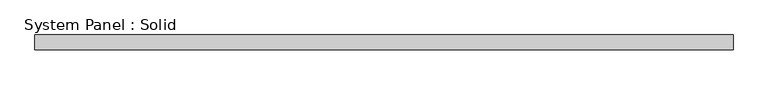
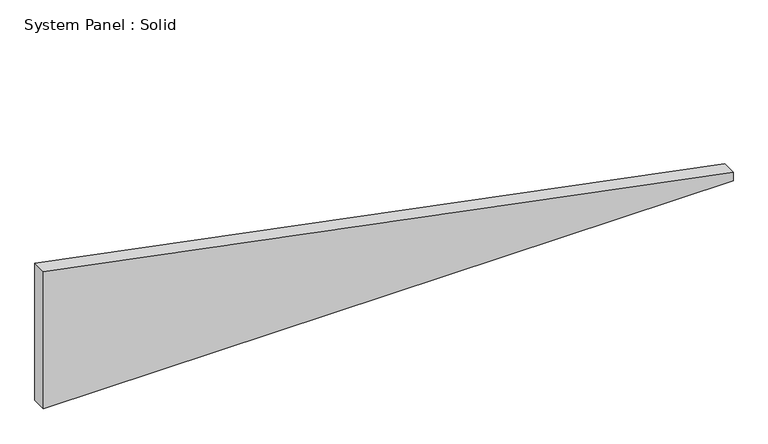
"""IFC4 building model written with IfcOpenShell, lengths in millimetres: plate geometry, System Panel : Solid."""

from ifc_helpers import new_model, si_unit, frame, origin, place, context, project, spatial, polyline, outline, extrude, source, transform, mapped, element, save


def system_panel_solid_212cb18d(model_context):
    return source(origin(), model_context, "Body", "SweptSolid", [
        extrude(outline(polyline([(0.0, -1492.25), (0.0, 1492.25), (38.2533207, 1492.25), (627.5866317, -1492.25), (0.0, -1492.25)])), frame((0.0, -19.05, 0.0), z_axis=(0.0, 1.0, 0.0), x_axis=(0.0, 0.0, 1.0)), (0.0, 0.0, 1.0), 63.5),
    ])


if __name__ == "__main__":
    model = new_model("IFC4")
    model_context = context("Model", 3, world=origin())
    ifc_project = project(units=[si_unit("LENGTHUNIT", "METRE", prefix="MILLI")], contexts=[model_context])
    site = spatial("IfcSite", under=ifc_project)
    building = spatial("IfcBuilding", under=site)
    placement = place(None, origin())
    system_panel_solid_shape = system_panel_solid_212cb18d(model_context)
    element("IfcPlate", 1, ObjectType="System Panel : Solid", at=placement, inside=building, context=model_context, shape_type="MappedRepresentation", body=[
        mapped(system_panel_solid_shape, transform((0.0, 0.0, 0.0), x_axis=(1.0, 0.0, 0.0), y_axis=(0.0, 1.0, 0.0), z_axis=(0.0, 0.0, 1.0))),
    ])
    save(model, "model.ifc")
